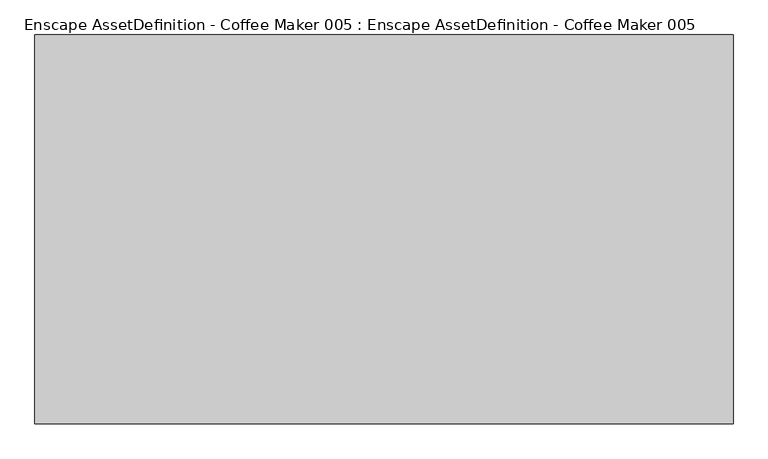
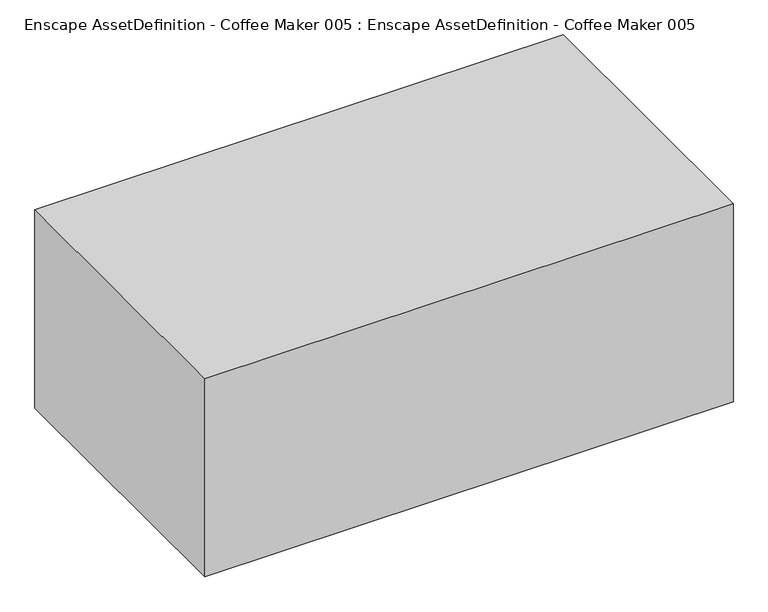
"""IFC4 building model written with IfcOpenShell, lengths in millimetres: geographic element geometry, Enscape AssetDefinition - Coffee Maker 005 : Enscape AssetDefinition - Coffee Maker 005."""

from ifc_helpers import new_model, si_unit, origin, place, context, project, spatial, triangles, source, transform, mapped, element, save


def enscape_assetdefinition_coffee_maker_005_enscape_c3ac5309(model_context):
    return source(origin(), model_context, "Body", "Tessellation", [
        triangles([(556.0000013, -391.6670088, 442.8639928), (556.0000013, 230.0299999, 442.8639928), (-560.0000115, 230.0299999, 442.8639928), (-560.0000115, -391.6670088, 442.8639928), (-560.0000115, -391.6670088, 0.0), (-560.0000115, 230.0299999, 0.0), (556.0000013, -391.6670088, 0.0), (556.0000013, 230.0299999, 0.0)], [[7, 6, 8], [5, 6, 7], [2, 8, 6], [3, 2, 6], [1, 7, 8], [2, 1, 8], [4, 5, 7], [1, 4, 7], [3, 6, 5], [4, 3, 5], [1, 2, 3], [4, 1, 3]]),
    ])


if __name__ == "__main__":
    model = new_model("IFC4")
    model_context = context("Model", 3, world=origin())
    ifc_project = project(units=[si_unit("LENGTHUNIT", "METRE", prefix="MILLI")], contexts=[model_context])
    site = spatial("IfcSite", under=ifc_project)
    building = spatial("IfcBuilding", under=site)
    placement = place(None, origin())
    enscape_assetdefinition_coffee_maker_005_enscape_shape = enscape_assetdefinition_coffee_maker_005_enscape_c3ac5309(model_context)
    element("IfcGeographicElement", 1, ObjectType="Enscape AssetDefinition - Coffee Maker 005 : Enscape AssetDefinition - Coffee Maker 005", at=placement, inside=building, context=model_context, shape_type="MappedRepresentation", body=[
        mapped(enscape_assetdefinition_coffee_maker_005_enscape_shape, transform((0.0, 0.0, 0.0), x_axis=(1.0, 0.0, 0.0), y_axis=(0.0, 1.0, 0.0), z_axis=(0.0, 0.0, 1.0))),
    ])
    save(model, "model.ifc")
